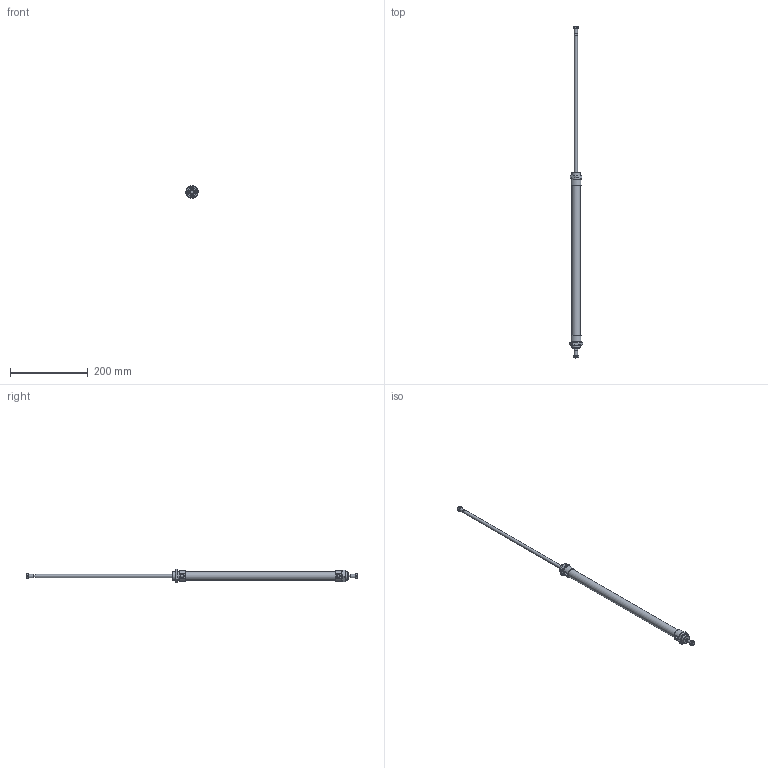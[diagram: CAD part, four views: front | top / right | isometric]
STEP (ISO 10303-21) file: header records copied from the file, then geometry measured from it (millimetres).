
FILE_DESCRIPTION((''),'2;1');
FILE_NAME('I:\Area Tecnica\Disegni\VARIE-3D\Componenti\1280\1282_##_####_#\1282_20_0350.iam.stp','2009-06-03T15:26:19',(''),(''),'Autodesk Inventor 2010','Autodesk Inventor 2010','');
FILE_SCHEMA(('AUTOMOTIVE_DESIGN { 1 0 10303 214 1 1 1 1 }'));
Length unit declared in the file: millimetre
Products named in the file (5): 1282_20_0350; C1282_20_350; S1282_20_350; 1200_20_05; 1200_20_06
Assembly tree (6 placements, depth 2):
  1282_20_0350
    C1282_20_350
    S1282_20_350
    1200_20_05  x2
    1200_20_06  x2
Bounding box: 34.64 x 856 x 34.64 mm (x, y, z)
Volume: 193807.9 mm3; surface area: 70490.2 mm2
Topology: 6 solids, 6 shells, 141 faces, 309 edges, 184 vertices
Faces by surface type: plane 60, cone 52, bspline 18, cylinder 11
Full cylindrical faces by diameter (mm): 6.5 x2, 8 x4, 21.2 x1, 22 x2
Entity records: 2813 total; most frequent: CARTESIAN_POINT 727, DIRECTION 386, ORIENTED_EDGE 352, EDGE_CURVE 176, AXIS2_PLACEMENT_3D 169, EDGE_LOOP 132, VERTEX_POINT 116, STYLED_ITEM 99
